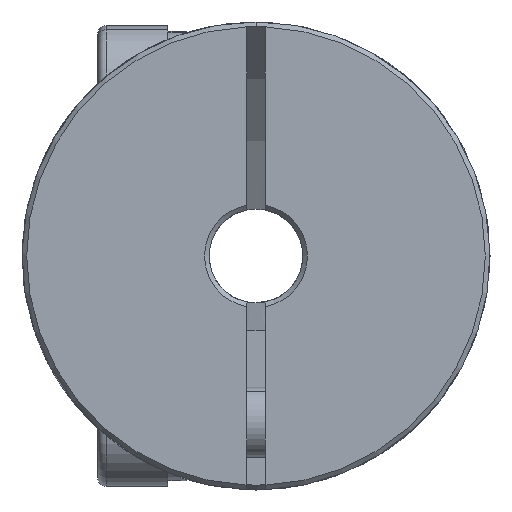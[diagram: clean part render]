
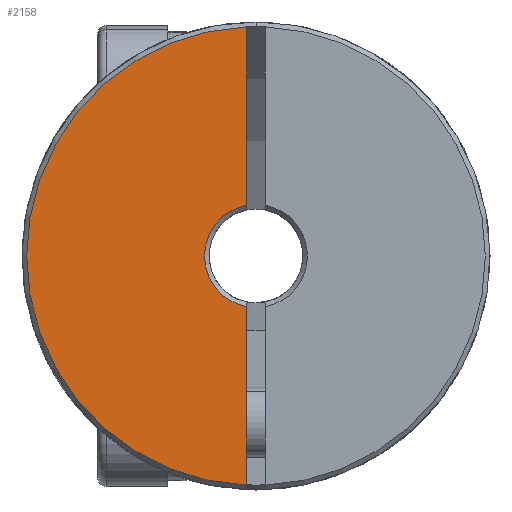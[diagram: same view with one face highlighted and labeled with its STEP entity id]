
A CAD part, front view. The second image highlights one B-rep face of the part: STEP entity #2158.
In plain terms, the highlighted planar face has unit normal (0, -1, 0).
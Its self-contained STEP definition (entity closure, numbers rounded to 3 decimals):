
#23 = DIRECTION ( 'NONE',  ( 0., 0., 1. ) ) ;
#107 = CARTESIAN_POINT ( 'NONE',  ( -0.4, -17.5, 2.163 ) ) ;
#151 = AXIS2_PLACEMENT_3D ( 'NONE', #6500, #5849, #704 ) ;
#160 = VERTEX_POINT ( 'NONE', #5051 ) ;
#344 = EDGE_CURVE ( 'NONE', #160, #2937, #5295, .T. ) ;
#622 = LINE ( 'NONE', #3172, #3360 ) ;
#661 = EDGE_CURVE ( 'NONE', #160, #1840, #999, .T. ) ;
#704 = DIRECTION ( 'NONE',  ( 0., 0., 1. ) ) ;
#772 = ORIENTED_EDGE ( 'NONE', *, *, #3336, .T. ) ;
#966 = AXIS2_PLACEMENT_3D ( 'NONE', #6917, #3989, #2221 ) ;
#999 = LINE ( 'NONE', #4752, #4833 ) ;
#1149 = VERTEX_POINT ( 'NONE', #3152 ) ;
#1588 = CARTESIAN_POINT ( 'NONE',  ( -0.4, -17.5, -9.792 ) ) ;
#1612 = EDGE_CURVE ( 'NONE', #1149, #2937, #622, .T. ) ;
#1638 = ORIENTED_EDGE ( 'NONE', *, *, #661, .F. ) ;
#1743 = CIRCLE ( 'NONE', #966, 9.8 ) ;
#1766 = PLANE ( 'NONE',  #2365 ) ;
#1840 = VERTEX_POINT ( 'NONE', #1588 ) ;
#1853 = DIRECTION ( 'NONE',  ( 0., 0., -1. ) ) ;
#2158 = ADVANCED_FACE ( 'NONE', ( #6682 ), #1766, .F. ) ;
#2221 = DIRECTION ( 'NONE',  ( 0., 0., 1. ) ) ;
#2365 = AXIS2_PLACEMENT_3D ( 'NONE', #6981, #5862, #23 ) ;
#2558 = DIRECTION ( 'NONE',  ( 0., 0., -1. ) ) ;
#2937 = VERTEX_POINT ( 'NONE', #107 ) ;
#3152 = CARTESIAN_POINT ( 'NONE',  ( -0.4, -17.5, 9.792 ) ) ;
#3172 = CARTESIAN_POINT ( 'NONE',  ( -0.4, -17.5, 0. ) ) ;
#3336 = EDGE_CURVE ( 'NONE', #1149, #1840, #1743, .T. ) ;
#3360 = VECTOR ( 'NONE', #2558, 1000. ) ;
#3960 = ORIENTED_EDGE ( 'NONE', *, *, #344, .T. ) ;
#3989 = DIRECTION ( 'NONE',  ( 0., -1., 0. ) ) ;
#4051 = ORIENTED_EDGE ( 'NONE', *, *, #1612, .F. ) ;
#4752 = CARTESIAN_POINT ( 'NONE',  ( -0.4, -17.5, 0. ) ) ;
#4833 = VECTOR ( 'NONE', #1853, 1000. ) ;
#5051 = CARTESIAN_POINT ( 'NONE',  ( -0.4, -17.5, -2.163 ) ) ;
#5295 = CIRCLE ( 'NONE', #151, 2.2 ) ;
#5849 = DIRECTION ( 'NONE',  ( 0., 1., 0. ) ) ;
#5862 = DIRECTION ( 'NONE',  ( 0., 1., 0. ) ) ;
#5886 = EDGE_LOOP ( 'NONE', ( #4051, #772, #1638, #3960 ) ) ;
#6500 = CARTESIAN_POINT ( 'NONE',  ( 0., -17.5, 0. ) ) ;
#6682 = FACE_OUTER_BOUND ( 'NONE', #5886, .T. ) ;
#6917 = CARTESIAN_POINT ( 'NONE',  ( 0., -17.5, 0. ) ) ;
#6981 = CARTESIAN_POINT ( 'NONE',  ( 0., -17.5, 0. ) ) ;
